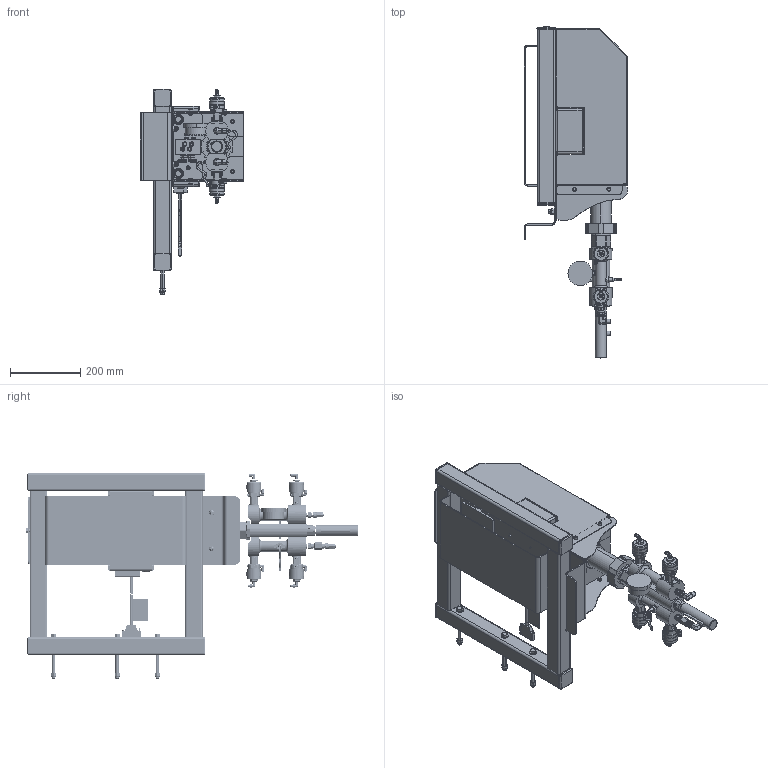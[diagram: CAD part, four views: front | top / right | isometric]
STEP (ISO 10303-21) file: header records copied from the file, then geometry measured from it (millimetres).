
FILE_DESCRIPTION((''),'2;1');
FILE_NAME('24R968-EN-Y_PRT','2019-12-31T18:06:40',('qusrh3'),(''),'CREO PARAMETRIC BY PTC INC, 2019030','CREO PARAMETRIC BY PTC INC, 2019030','');
FILE_SCHEMA(('CONFIG_CONTROL_DESIGN'));
Products named in the file (1): 24R968-EN-Y_PRT
Bounding box: 295.15 x 944.52 x 585.79 mm (x, y, z)
Surface area: 2333682.4 mm2 (no closed solid volume)
Topology: 0 solids, 519 shells, 4033 faces, 13032 edges, 9207 vertices
Faces by surface type: plane 1663, cylinder 1185, cone 642, torus 268, bspline 205, sphere 40, extrusion 30
Entity records: 162327 total; most frequent: CARTESIAN_POINT 53641, DIRECTION 22237, ORIENTED_EDGE 20435, EDGE_CURVE 13015, VERTEX_POINT 9207, AXIS2_PLACEMENT_3D 7765, VECTOR 6707, LINE 6677
